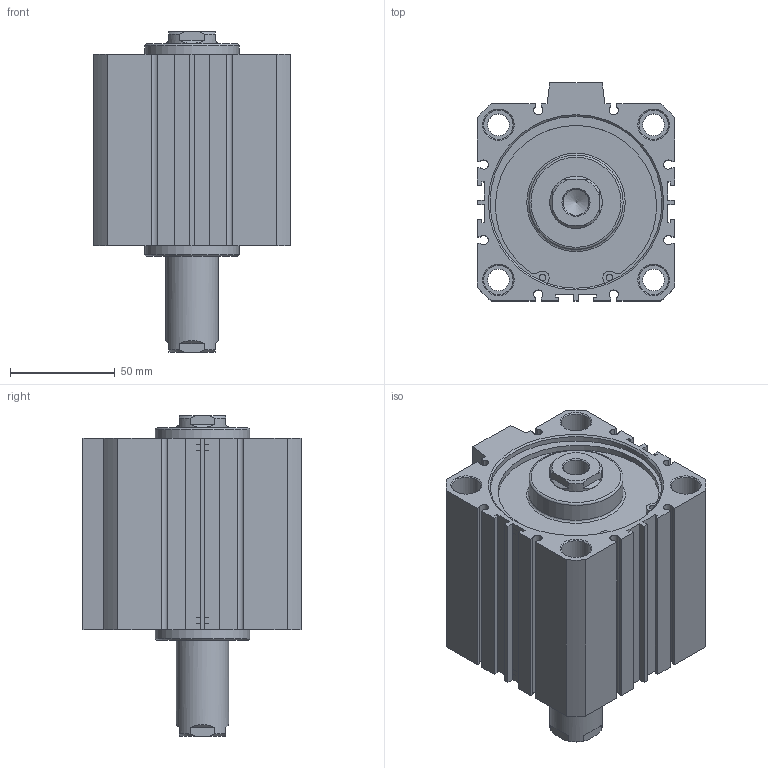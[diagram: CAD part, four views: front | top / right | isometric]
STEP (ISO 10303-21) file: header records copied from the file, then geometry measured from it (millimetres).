
FILE_DESCRIPTION((''),'2;1');
FILE_NAME('I:\3D電子目錄\氣缸\JDD\JDD-S\JDD80-S\JDD80x4-S.stp','2007-02-09T09:01:01',('662F206'),(''),'Autodesk Inventor 10','Autodesk Inventor 10','');
FILE_SCHEMA(('AUTOMOTIVE_DESIGN { 1 0 10303 214 1 1 1 1 }'));
Length unit declared in the file: millimetre
Products named in the file (3): JDD80-S; R 形環 82
Assembly tree (3 placements, depth 2):
  JDD80-S
    JDD80-S
    R 形環 82  x2
Bounding box: 94 x 104 x 152.7 mm (x, y, z)
Volume: 752358.4 mm3; surface area: 98717 mm2
Topology: 3 solids, 3 shells, 200 faces, 502 edges, 330 vertices
Faces by surface type: plane 116, cylinder 52, cone 24, bspline 6, torus 2
Full cylindrical faces by diameter (mm): 3.1 x4, 3.5 x2, 10.4 x4, 14 x8, 25 x2, 45 x2, 82 x4, 85.5 x2
Entity records: 5511 total; most frequent: CARTESIAN_POINT 1094, DIRECTION 908, ORIENTED_EDGE 824, EDGE_CURVE 412, AXIS2_PLACEMENT_3D 324, VERTEX_POINT 300, EDGE_LOOP 272, VECTOR 260
